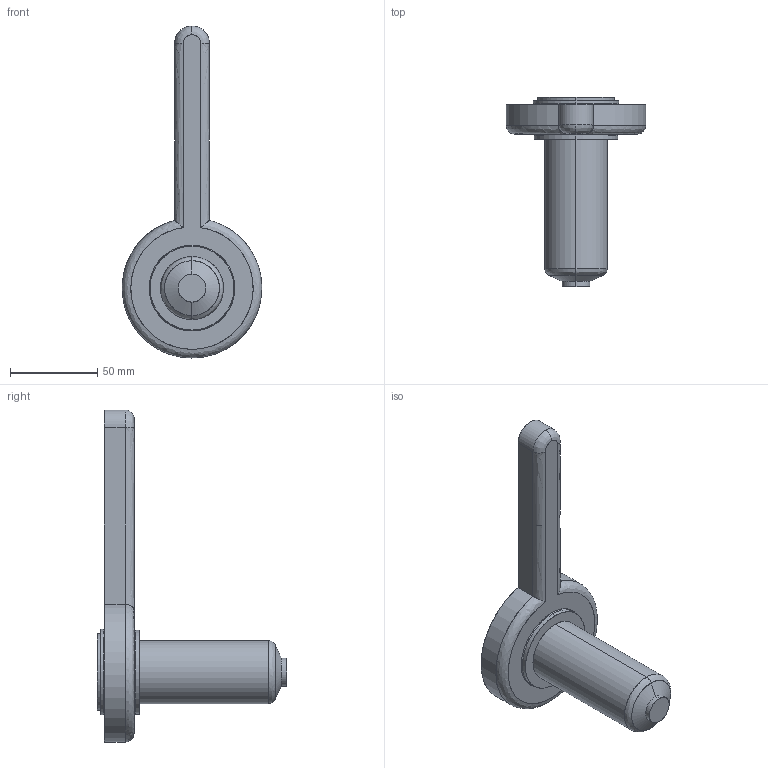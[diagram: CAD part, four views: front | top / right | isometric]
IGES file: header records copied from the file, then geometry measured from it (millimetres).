
Start section: SolidWorks IGES file using analytic representation for surfaces
Global section: file name: C:\Documents and Settings\ws-20\Desktop\TEMPORANEA\Sede UGBE5002-S-A C-84 L-106 P-0.IGS; native system: SolidWorks 2012; preprocessor: SolidWorks 2012; author: ws-20; date: 120307.090645; units: millimetre
Bounding box: 79.96 x 108.21 x 190 mm (x, y, z)
Surface area: 31058.2 mm2 (no closed solid volume)
Topology: 0 solids, 0 shells, 34 faces, 788 edges, 788 vertices
Faces by surface type: revolution 21, bspline 13
